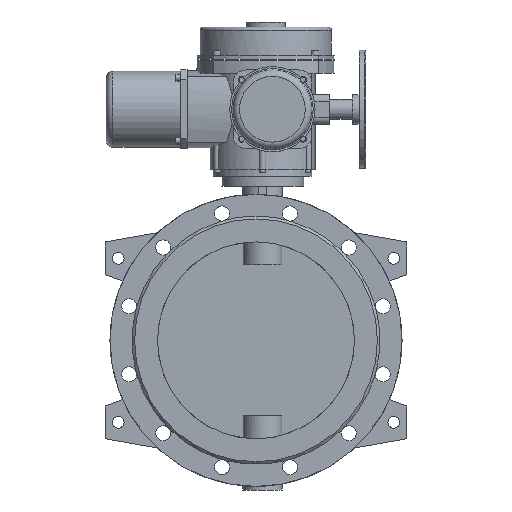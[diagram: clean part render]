
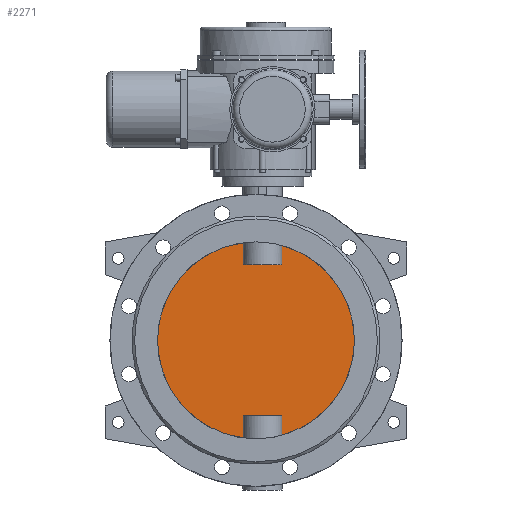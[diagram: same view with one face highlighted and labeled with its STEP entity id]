
A CAD part, front view. The second image highlights one B-rep face of the part: STEP entity #2271.
In plain terms, the highlighted planar face has unit normal (0, -1, 0).
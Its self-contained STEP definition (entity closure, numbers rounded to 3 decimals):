
#2271=ADVANCED_FACE('',(#6122),#6124,.F.);
#6122=FACE_BOUND('',#6123,.T.);
#6123=EDGE_LOOP('',(#8504,#8505,#8506,#8507,#8508,#8509,#8510,#8511));
#6124=PLANE('',#6125);
#6125=AXIS2_PLACEMENT_3D('',#6126,#6127,#6128);
#6126=CARTESIAN_POINT('',(0.,-5.,0.));
#6127=DIRECTION('',(0.,1.,0.));
#6128=DIRECTION('',(1.,0.,0.));
#8504=ORIENTED_EDGE('',*,*,#9712,.T.);
#8505=ORIENTED_EDGE('',*,*,#9744,.T.);
#8506=ORIENTED_EDGE('',*,*,#9745,.T.);
#8507=ORIENTED_EDGE('',*,*,#9746,.T.);
#8508=ORIENTED_EDGE('',*,*,#9714,.T.);
#8509=ORIENTED_EDGE('',*,*,#9747,.T.);
#8510=ORIENTED_EDGE('',*,*,#9748,.T.);
#8511=ORIENTED_EDGE('',*,*,#9749,.T.);
#9712=EDGE_CURVE('',#11106,#11107,#11108,.F.);
#9714=EDGE_CURVE('',#11111,#11109,#11112,.F.);
#9744=EDGE_CURVE('',#11107,#11158,#11159,.T.);
#9745=EDGE_CURVE('',#11158,#11160,#11161,.F.);
#9746=EDGE_CURVE('',#11160,#11111,#11162,.F.);
#9747=EDGE_CURVE('',#11109,#11163,#11164,.F.);
#9748=EDGE_CURVE('',#11163,#11165,#11166,.F.);
#9749=EDGE_CURVE('',#11165,#11106,#11167,.T.);
#11106=VERTEX_POINT('',#17219);
#11107=VERTEX_POINT('',#17220);
#11108=CIRCLE('',#17221,150.);
#11109=VERTEX_POINT('',#17225);
#11111=VERTEX_POINT('',#17331);
#11112=CIRCLE('',#17332,150.);
#11158=VERTEX_POINT('',#17649);
#11159=LINE('',#17650,#17651);
#11160=VERTEX_POINT('',#17653);
#11161=LINE('',#17654,#17655);
#11162=LINE('',#17657,#17658);
#11163=VERTEX_POINT('',#17660);
#11164=LINE('',#17661,#17662);
#11165=VERTEX_POINT('',#17664);
#11166=LINE('',#17665,#17666);
#11167=LINE('',#17668,#17669);
#17219=CARTESIAN_POINT('',(39.58,-5.,-144.684));
#17220=CARTESIAN_POINT('',(39.58,-5.,144.684));
#17221=AXIS2_PLACEMENT_3D('',#17222,#17223,#17224);
#17222=CARTESIAN_POINT('',(0.,-5.,0.));
#17223=DIRECTION('',(0.,1.,0.));
#17224=DIRECTION('',(0.264,0.,0.965));
#17225=CARTESIAN_POINT('',(-19.58,-5.,-148.717));
#17331=CARTESIAN_POINT('',(-19.58,-5.,148.717));
#17332=AXIS2_PLACEMENT_3D('',#17333,#17334,#17335);
#17333=CARTESIAN_POINT('',(0.,-5.,0.));
#17334=DIRECTION('',(0.,1.,0.));
#17335=DIRECTION('',(-0.131,0.,-0.991));
#17649=CARTESIAN_POINT('',(39.58,-5.,115.));
#17650=CARTESIAN_POINT('',(39.58,-5.,144.684));
#17651=VECTOR('',#17652,1.);
#17652=DIRECTION('',(0.,0.,-1.));
#17653=CARTESIAN_POINT('',(-19.58,-5.,115.));
#17654=CARTESIAN_POINT('',(-19.58,-5.,115.));
#17655=VECTOR('',#17656,1.);
#17656=DIRECTION('',(1.,0.,0.));
#17657=CARTESIAN_POINT('',(-19.58,-5.,148.717));
#17658=VECTOR('',#17659,1.);
#17659=DIRECTION('',(0.,0.,-1.));
#17660=CARTESIAN_POINT('',(-19.58,-5.,-115.));
#17661=CARTESIAN_POINT('',(-19.58,-5.,-115.));
#17662=VECTOR('',#17663,1.);
#17663=DIRECTION('',(0.,0.,-1.));
#17664=CARTESIAN_POINT('',(39.58,-5.,-115.));
#17665=CARTESIAN_POINT('',(39.58,-5.,-115.));
#17666=VECTOR('',#17667,1.);
#17667=DIRECTION('',(-1.,0.,0.));
#17668=CARTESIAN_POINT('',(39.58,-5.,-115.));
#17669=VECTOR('',#17670,1.);
#17670=DIRECTION('',(0.,0.,-1.));
